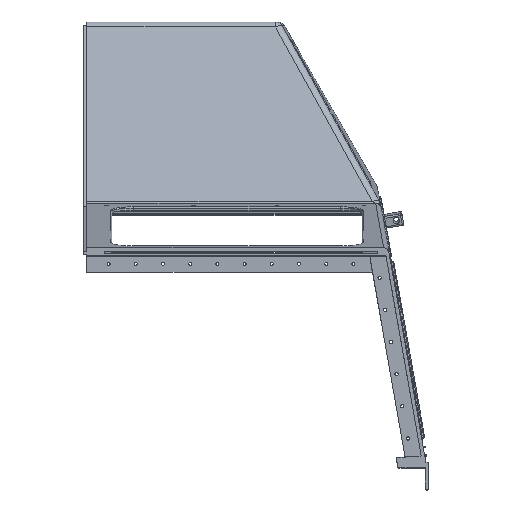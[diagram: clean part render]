
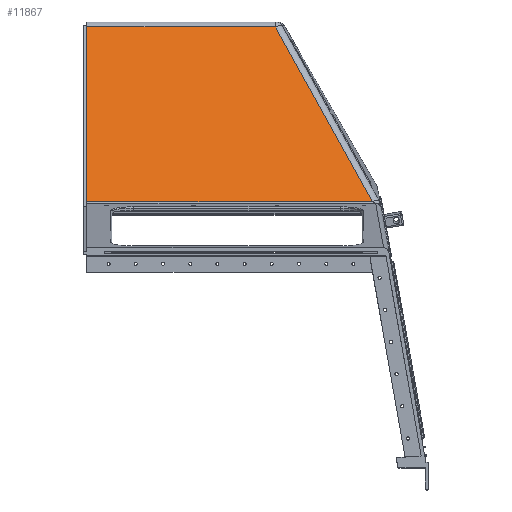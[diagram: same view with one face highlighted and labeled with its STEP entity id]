
A CAD part, top view. The second image highlights one B-rep face of the part: STEP entity #11867.
In plain terms, the highlighted planar face has unit normal (0, 0.342, 0.94).
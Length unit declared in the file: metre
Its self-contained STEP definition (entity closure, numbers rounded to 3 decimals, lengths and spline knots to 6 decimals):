
#2185=ORIENTED_EDGE('',*,*,#5359,.T.);
#2186=ORIENTED_EDGE('',*,*,#5360,.T.);
#2187=ORIENTED_EDGE('',*,*,#5092,.T.);
#2188=ORIENTED_EDGE('',*,*,#5361,.T.);
#5092=EDGE_CURVE('',#6689,#6688,#7743,.T.);
#5359=EDGE_CURVE('',#6908,#6909,#7917,.F.);
#5360=EDGE_CURVE('',#6909,#6689,#7918,.T.);
#5361=EDGE_CURVE('',#6688,#6908,#7919,.F.);
#6688=VERTEX_POINT('',#18907);
#6689=VERTEX_POINT('',#18909);
#6908=VERTEX_POINT('',#19476);
#6909=VERTEX_POINT('',#19477);
#7743=LINE('',#18908,#8554);
#7917=LINE('',#19475,#8728);
#7918=LINE('',#19478,#8729);
#7919=LINE('',#19479,#8730);
#8554=VECTOR('',#14797,1.);
#8728=VECTOR('',#15239,1.);
#8729=VECTOR('',#15240,1.);
#8730=VECTOR('',#15241,1.);
#9263=EDGE_LOOP('',(#2185,#2186,#2187,#2188));
#10448=FACE_BOUND('',#9263,.T.);
#11505=PLANE('',#12903);
#11867=ADVANCED_FACE('Face appearance 1',(#10448),#11505,.F.);
#12903=AXIS2_PLACEMENT_3D('',#19474,#15237,#15238);
#14797=DIRECTION('',(0.,-0.94,0.342));
#15237=DIRECTION('',(0.,-0.342,-0.94));
#15238=DIRECTION('',(1.,0.,0.));
#15239=DIRECTION('',(0.462,-0.833,0.303));
#15240=DIRECTION('',(-1.,0.,0.));
#15241=DIRECTION('',(-1.,0.,0.));
#18907=CARTESIAN_POINT('',(0.,0.244815,0.52304));
#18908=CARTESIAN_POINT('',(0.,0.558779,0.408766));
#18909=CARTESIAN_POINT('',(0.,0.405394,0.464594));
#19474=CARTESIAN_POINT('',(0.0025,0.558779,0.408766));
#19475=CARTESIAN_POINT('',(0.172202,0.407577,0.463799));
#19476=CARTESIAN_POINT('',(0.26241,0.244815,0.52304));
#19477=CARTESIAN_POINT('',(0.173412,0.405394,0.464594));
#19478=CARTESIAN_POINT('',(0.,0.405394,0.464594));
#19479=CARTESIAN_POINT('',(0.0025,0.244815,0.52304));
